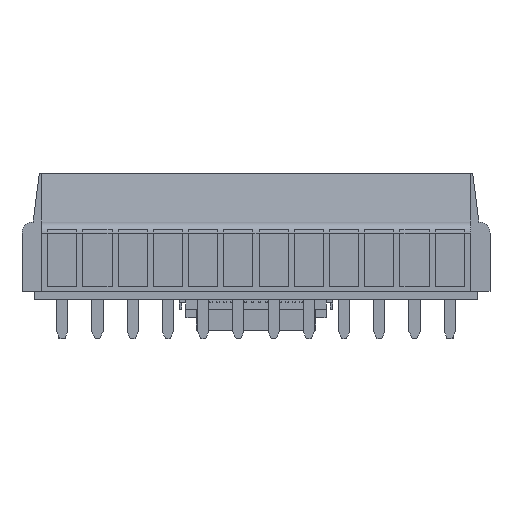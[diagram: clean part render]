
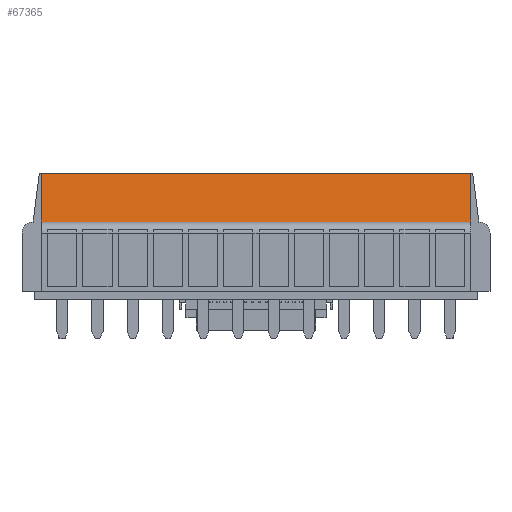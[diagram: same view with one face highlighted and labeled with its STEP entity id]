
A CAD part, front view. The second image highlights one B-rep face of the part: STEP entity #67365.
In plain terms, the highlighted planar face has unit normal (0, -0.992, 0.128).
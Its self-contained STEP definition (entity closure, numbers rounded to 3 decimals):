
#63134 = PLANE('',#63135);
#63135 = AXIS2_PLACEMENT_3D('',#63136,#63137,#63138);
#63136 = CARTESIAN_POINT('',(40.49,12.12,4.43));
#63137 = DIRECTION('',(1.,0.,0.));
#63138 = DIRECTION('',(0.,0.,1.));
#64354 = PLANE('',#64355);
#64355 = AXIS2_PLACEMENT_3D('',#64356,#64357,#64358);
#64356 = CARTESIAN_POINT('',(9.51,12.12,4.43));
#64357 = DIRECTION('',(1.,0.,0.));
#64358 = DIRECTION('',(0.,0.,1.));
#64396 = VERTEX_POINT('',#64397);
#64397 = CARTESIAN_POINT('',(40.49,9.9,5.6));
#64413 = PLANE('',#64414);
#64414 = AXIS2_PLACEMENT_3D('',#64415,#64416,#64417);
#64415 = CARTESIAN_POINT('',(40.49,9.9,5.6));
#64416 = DIRECTION('',(0.,0.,1.));
#64417 = DIRECTION('',(0.,-1.,0.));
#64532 = VERTEX_POINT('',#64533);
#64533 = CARTESIAN_POINT('',(40.49,10.35,9.1));
#64547 = PLANE('',#64548);
#64548 = AXIS2_PLACEMENT_3D('',#64549,#64550,#64551);
#64549 = CARTESIAN_POINT('',(40.49,13.65,9.1));
#64550 = DIRECTION('',(0.,0.,1.));
#64551 = DIRECTION('',(0.,-1.,0.));
#64559 = EDGE_CURVE('',#64532,#64396,#64560,.T.);
#64560 = SURFACE_CURVE('',#64561,(#64565,#64572),.PCURVE_S1.);
#64561 = LINE('',#64562,#64563);
#64562 = CARTESIAN_POINT('',(40.49,10.35,9.1));
#64563 = VECTOR('',#64564,1.);
#64564 = DIRECTION('',(0.,-0.128,
    -0.992));
#64565 = PCURVE('',#63134,#64566);
#64566 = DEFINITIONAL_REPRESENTATION('',(#64567),#64571);
#64567 = LINE('',#64568,#64569);
#64568 = CARTESIAN_POINT('',(4.67,1.77));
#64569 = VECTOR('',#64570,1.);
#64570 = DIRECTION('',(-0.992,0.128));
#64571 = ( GEOMETRIC_REPRESENTATION_CONTEXT(2) 
PARAMETRIC_REPRESENTATION_CONTEXT() REPRESENTATION_CONTEXT('2D SPACE',''
  ) );
#64572 = PCURVE('',#64573,#64578);
#64573 = PLANE('',#64574);
#64574 = AXIS2_PLACEMENT_3D('',#64575,#64576,#64577);
#64575 = CARTESIAN_POINT('',(40.49,10.35,9.1));
#64576 = DIRECTION('',(0.,-0.992,0.128)
  );
#64577 = DIRECTION('',(0.,-0.128,
    -0.992));
#64578 = DEFINITIONAL_REPRESENTATION('',(#64579),#64583);
#64579 = LINE('',#64580,#64581);
#64580 = CARTESIAN_POINT('',(-0.,0.));
#64581 = VECTOR('',#64582,1.);
#64582 = DIRECTION('',(1.,0.));
#64583 = ( GEOMETRIC_REPRESENTATION_CONTEXT(2) 
PARAMETRIC_REPRESENTATION_CONTEXT() REPRESENTATION_CONTEXT('2D SPACE',''
  ) );
#66006 = VERTEX_POINT('',#66007);
#66007 = CARTESIAN_POINT('',(9.51,9.9,5.6));
#66105 = VERTEX_POINT('',#66106);
#66106 = CARTESIAN_POINT('',(9.51,10.35,9.1));
#66127 = EDGE_CURVE('',#66105,#66006,#66128,.T.);
#66128 = SURFACE_CURVE('',#66129,(#66133,#66140),.PCURVE_S1.);
#66129 = LINE('',#66130,#66131);
#66130 = CARTESIAN_POINT('',(9.51,10.35,9.1));
#66131 = VECTOR('',#66132,1.);
#66132 = DIRECTION('',(0.,-0.128,
    -0.992));
#66133 = PCURVE('',#64354,#66134);
#66134 = DEFINITIONAL_REPRESENTATION('',(#66135),#66139);
#66135 = LINE('',#66136,#66137);
#66136 = CARTESIAN_POINT('',(4.67,1.77));
#66137 = VECTOR('',#66138,1.);
#66138 = DIRECTION('',(-0.992,0.128));
#66139 = ( GEOMETRIC_REPRESENTATION_CONTEXT(2) 
PARAMETRIC_REPRESENTATION_CONTEXT() REPRESENTATION_CONTEXT('2D SPACE',''
  ) );
#66140 = PCURVE('',#64573,#66141);
#66141 = DEFINITIONAL_REPRESENTATION('',(#66142),#66146);
#66142 = LINE('',#66143,#66144);
#66143 = CARTESIAN_POINT('',(0.,-30.98));
#66144 = VECTOR('',#66145,1.);
#66145 = DIRECTION('',(1.,0.));
#66146 = ( GEOMETRIC_REPRESENTATION_CONTEXT(2) 
PARAMETRIC_REPRESENTATION_CONTEXT() REPRESENTATION_CONTEXT('2D SPACE',''
  ) );
#67343 = EDGE_CURVE('',#64396,#66006,#67344,.T.);
#67344 = SURFACE_CURVE('',#67345,(#67349,#67356),.PCURVE_S1.);
#67345 = LINE('',#67346,#67347);
#67346 = CARTESIAN_POINT('',(40.49,9.9,5.6));
#67347 = VECTOR('',#67348,1.);
#67348 = DIRECTION('',(-1.,0.,0.));
#67349 = PCURVE('',#64413,#67350);
#67350 = DEFINITIONAL_REPRESENTATION('',(#67351),#67355);
#67351 = LINE('',#67352,#67353);
#67352 = CARTESIAN_POINT('',(0.,0.));
#67353 = VECTOR('',#67354,1.);
#67354 = DIRECTION('',(0.,-1.));
#67355 = ( GEOMETRIC_REPRESENTATION_CONTEXT(2) 
PARAMETRIC_REPRESENTATION_CONTEXT() REPRESENTATION_CONTEXT('2D SPACE',''
  ) );
#67356 = PCURVE('',#64573,#67357);
#67357 = DEFINITIONAL_REPRESENTATION('',(#67358),#67362);
#67358 = LINE('',#67359,#67360);
#67359 = CARTESIAN_POINT('',(3.529,0.));
#67360 = VECTOR('',#67361,1.);
#67361 = DIRECTION('',(0.,-1.));
#67362 = ( GEOMETRIC_REPRESENTATION_CONTEXT(2) 
PARAMETRIC_REPRESENTATION_CONTEXT() REPRESENTATION_CONTEXT('2D SPACE',''
  ) );
#67365 = ADVANCED_FACE('',(#67366),#64573,.T.);
#67366 = FACE_BOUND('',#67367,.T.);
#67367 = EDGE_LOOP('',(#67368,#67389,#67390,#67391));
#67368 = ORIENTED_EDGE('',*,*,#67369,.T.);
#67369 = EDGE_CURVE('',#64532,#66105,#67370,.T.);
#67370 = SURFACE_CURVE('',#67371,(#67375,#67382),.PCURVE_S1.);
#67371 = LINE('',#67372,#67373);
#67372 = CARTESIAN_POINT('',(40.49,10.35,9.1));
#67373 = VECTOR('',#67374,1.);
#67374 = DIRECTION('',(-1.,0.,0.));
#67375 = PCURVE('',#64573,#67376);
#67376 = DEFINITIONAL_REPRESENTATION('',(#67377),#67381);
#67377 = LINE('',#67378,#67379);
#67378 = CARTESIAN_POINT('',(-0.,0.));
#67379 = VECTOR('',#67380,1.);
#67380 = DIRECTION('',(0.,-1.));
#67381 = ( GEOMETRIC_REPRESENTATION_CONTEXT(2) 
PARAMETRIC_REPRESENTATION_CONTEXT() REPRESENTATION_CONTEXT('2D SPACE',''
  ) );
#67382 = PCURVE('',#64547,#67383);
#67383 = DEFINITIONAL_REPRESENTATION('',(#67384),#67388);
#67384 = LINE('',#67385,#67386);
#67385 = CARTESIAN_POINT('',(3.3,0.));
#67386 = VECTOR('',#67387,1.);
#67387 = DIRECTION('',(0.,-1.));
#67388 = ( GEOMETRIC_REPRESENTATION_CONTEXT(2) 
PARAMETRIC_REPRESENTATION_CONTEXT() REPRESENTATION_CONTEXT('2D SPACE',''
  ) );
#67389 = ORIENTED_EDGE('',*,*,#66127,.T.);
#67390 = ORIENTED_EDGE('',*,*,#67343,.F.);
#67391 = ORIENTED_EDGE('',*,*,#64559,.F.);
